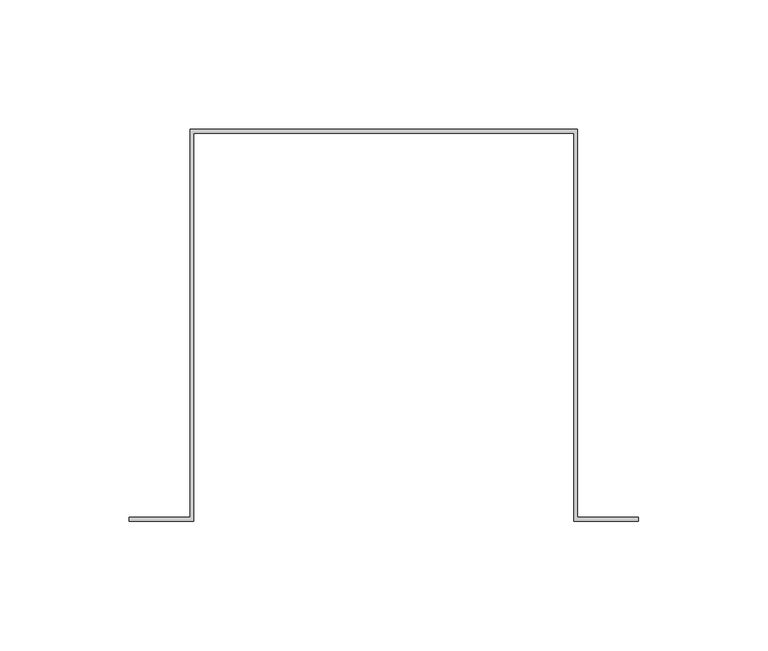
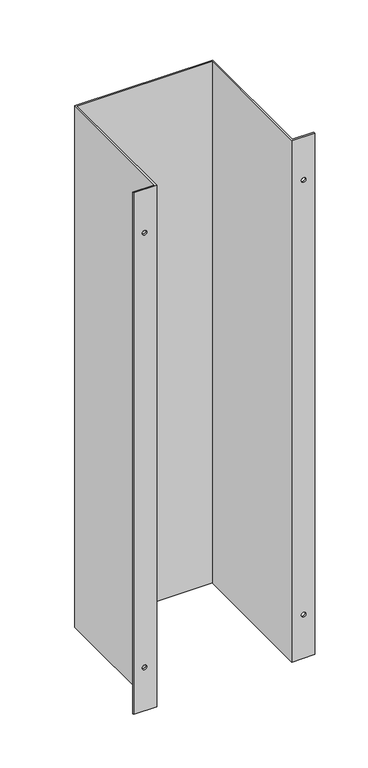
"""IFC4 building model written with IfcOpenShell, lengths in millimetres: flow terminal geometry, Carenagem - Aba Externa : Carenagem 600x150x150mm."""

from ifc_helpers import new_model, si_unit, frame, origin, place, context, project, spatial, polyline, circle_curve, source, transform, mapped, element, save
from ifc_brep_helpers import plane_surface, revolved_surface, advanced_brep


def flow_terminal_2c46cccc(model_context):
    return source(origin(), model_context, "Body", "AdvancedBrep", [
        advanced_brep(
        [(26.5, 101.5, 600.0), (26.5, 100.0, 600.0), (51.5, 100.0, 600.0), (51.5, 250.0, 600.0), (198.5, 250.0, 600.0), (198.5, 100.0, 600.0), (223.5, 100.0, 600.0), (223.5, 101.5, 600.0), (200.0, 101.5, 600.0), (200.0, 251.5, 600.0), (50.0, 251.5, 600.0), (50.0, 101.5, 600.0), (26.5, 101.5, 0.0), (50.0, 101.5, 0.0), (50.0, 251.5, 0.0), (200.0, 251.5, 0.0), (200.0, 101.5, 0.0), (223.5, 101.5, 0.0), (223.5, 100.0, 0.0), (198.5, 100.0, 0.0), (198.5, 250.0, 0.0), (51.5, 250.0, 0.0), (51.5, 100.0, 0.0), (26.5, 100.0, 0.0), (41.0, 100.0, 550.0), (36.0, 100.0, 550.0), (41.0, 100.0, 50.0), (36.0, 100.0, 50.0), (214.0, 100.0, 550.0), (209.0, 100.0, 550.0), (214.0, 100.0, 50.0), (209.0, 100.0, 50.0), (209.0, 101.5, 550.0), (214.0, 101.5, 550.0), (209.0, 101.5, 50.0), (214.0, 101.5, 50.0), (36.0, 101.5, 550.0), (41.0, 101.5, 550.0), (36.0, 101.5, 50.0), (41.0, 101.5, 50.0)],
        [
            (0, 1),
            (1, 2),
            (2, 3),
            (3, 4),
            (4, 5),
            (5, 6),
            (6, 7),
            (7, 8),
            (8, 9),
            (9, 10),
            (10, 11),
            (11, 0),
            (12, 13),
            (13, 14),
            (14, 15),
            (15, 16),
            (16, 17),
            (17, 18),
            (18, 19),
            (19, 20),
            (20, 21),
            (21, 22),
            (22, 23),
            (23, 12),
            (0, 12),
            (23, 1),
            (22, 2),
            (24, 25, circle_curve(frame((38.5, 100.0, 550.0), z_axis=(0.0, 1.0, 0.0), x_axis=(1.0, 0.0, 0.0)), 2.5)),
            (25, 24, circle_curve(frame((38.5, 100.0, 550.0), z_axis=(0.0, 1.0, 0.0), x_axis=(1.0, 0.0, 0.0)), 2.5)),
            (26, 27, circle_curve(frame((38.5, 100.0, 50.0), z_axis=(0.0, 1.0, 0.0), x_axis=(1.0, 0.0, 0.0)), 2.5)),
            (27, 26, circle_curve(frame((38.5, 100.0, 50.0), z_axis=(0.0, 1.0, 0.0), x_axis=(1.0, 0.0, 0.0)), 2.5)),
            (21, 3),
            (20, 4),
            (19, 5),
            (18, 6),
            (28, 29, circle_curve(frame((211.5, 100.0, 550.0), z_axis=(0.0, 1.0, 0.0), x_axis=(1.0, 0.0, 0.0)), 2.5)),
            (29, 28, circle_curve(frame((211.5, 100.0, 550.0), z_axis=(0.0, 1.0, 0.0), x_axis=(1.0, 0.0, 0.0)), 2.5)),
            (30, 31, circle_curve(frame((211.5, 100.0, 50.0), z_axis=(0.0, 1.0, 0.0), x_axis=(1.0, 0.0, 0.0)), 2.5)),
            (31, 30, circle_curve(frame((211.5, 100.0, 50.0), z_axis=(0.0, 1.0, 0.0), x_axis=(1.0, 0.0, 0.0)), 2.5)),
            (17, 7),
            (16, 8),
            (32, 33, circle_curve(frame((211.5, 101.5, 550.0), z_axis=(0.0, -1.0, 0.0), x_axis=(1.0, 0.0, 0.0)), 2.5)),
            (33, 32, circle_curve(frame((211.5, 101.5, 550.0), z_axis=(0.0, -1.0, 0.0), x_axis=(1.0, 0.0, 0.0)), 2.5)),
            (34, 35, circle_curve(frame((211.5, 101.5, 50.0), z_axis=(0.0, -1.0, 0.0), x_axis=(1.0, 0.0, 0.0)), 2.5)),
            (35, 34, circle_curve(frame((211.5, 101.5, 50.0), z_axis=(0.0, -1.0, 0.0), x_axis=(1.0, 0.0, 0.0)), 2.5)),
            (15, 9),
            (14, 10),
            (13, 11),
            (36, 37, circle_curve(frame((38.5, 101.5, 550.0), z_axis=(0.0, -1.0, 0.0), x_axis=(1.0, 0.0, 0.0)), 2.5)),
            (37, 36, circle_curve(frame((38.5, 101.5, 550.0), z_axis=(0.0, -1.0, 0.0), x_axis=(1.0, 0.0, 0.0)), 2.5)),
            (38, 39, circle_curve(frame((38.5, 101.5, 50.0), z_axis=(0.0, -1.0, 0.0), x_axis=(1.0, 0.0, 0.0)), 2.5)),
            (39, 38, circle_curve(frame((38.5, 101.5, 50.0), z_axis=(0.0, -1.0, 0.0), x_axis=(1.0, 0.0, 0.0)), 2.5)),
            (32, 29),
            (28, 33),
            (36, 25),
            (24, 37),
            (34, 31),
            (30, 35),
            (38, 27),
            (26, 39),
        ],
        [
            plane_surface(frame((26.5, 100.0, 600.0), z_axis=(0.0, 0.0, 1.0), x_axis=(0.0, -1.0, 0.0))),
            plane_surface(frame((26.5, 100.0, 0.0), z_axis=(0.0, 0.0, -1.0), x_axis=(0.0, 1.0, 0.0))),
            plane_surface(frame((26.5, 101.5, 600.0), z_axis=(-1.0, 0.0, 0.0), x_axis=(0.0, 0.0, -1.0))),
            plane_surface(frame((26.5, 100.0, 600.0), z_axis=(0.0, -1.0, 0.0), x_axis=(0.0, 0.0, -1.0))),
            plane_surface(frame((51.5, 100.0, 600.0), z_axis=(1.0, 0.0, 0.0), x_axis=(0.0, 0.0, -1.0))),
            plane_surface(frame((51.5, 250.0, 600.0), z_axis=(0.0, -1.0, 0.0), x_axis=(0.0, 0.0, -1.0))),
            plane_surface(frame((198.5, 250.0, 600.0), z_axis=(-1.0, 0.0, 0.0), x_axis=(0.0, 0.0, -1.0))),
            plane_surface(frame((198.5, 100.0, 600.0), z_axis=(0.0, -1.0, 0.0), x_axis=(0.0, 0.0, -1.0))),
            plane_surface(frame((223.5, 100.0, 600.0), z_axis=(1.0, 0.0, 0.0), x_axis=(0.0, 0.0, -1.0))),
            plane_surface(frame((223.5, 101.5, 600.0), z_axis=(0.0, 1.0, 0.0), x_axis=(0.0, 0.0, -1.0))),
            plane_surface(frame((200.0, 101.5, 600.0), z_axis=(1.0, 0.0, 0.0), x_axis=(0.0, 0.0, -1.0))),
            plane_surface(frame((200.0, 251.5, 600.0), z_axis=(0.0, 1.0, 0.0), x_axis=(0.0, 0.0, -1.0))),
            plane_surface(frame((50.0, 251.5, 600.0), z_axis=(-1.0, 0.0, 0.0), x_axis=(0.0, 0.0, -1.0))),
            plane_surface(frame((50.0, 101.5, 600.0), z_axis=(0.0, 1.0, 0.0), x_axis=(0.0, 0.0, -1.0))),
            revolved_surface(polyline([(214.0, 100.0, 550.0), (214.0, 101.5, 550.0)]), (211.5, 251.5, 550.0), (0.0, -1.0, 0.0)),
            revolved_surface(polyline([(41.0, 100.0, 550.0), (41.0, 101.5, 550.0)]), (38.5, -20.0, 550.0), (0.0, -1.0, 0.0)),
            revolved_surface(polyline([(214.0, 100.0, 50.0), (214.0, 101.5, 50.0)]), (211.5, -20.0, 50.0), (0.0, -1.0, 0.0)),
            revolved_surface(polyline([(41.0, 100.0, 50.0), (41.0, 101.5, 50.0)]), (38.5, -20.0, 50.0), (0.0, -1.0, 0.0)),
        ],
        [
            (0, [[1, 2, 3, 4, 5, 6, 7, 8, 9, 10, 11, 12]]),
            (1, [[13, 14, 15, 16, 17, 18, 19, 20, 21, 22, 23, 24]]),
            (2, [[-1, 25, -24, 26]]),
            (3, [[-2, -26, -23, 27], [28, 29], [30, 31]]),
            (4, [[-3, -27, -22, 32]]),
            (5, [[-4, -32, -21, 33]]),
            (6, [[-5, -33, -20, 34]]),
            (7, [[-6, -34, -19, 35], [36, 37], [38, 39]]),
            (8, [[-7, -35, -18, 40]]),
            (9, [[-8, -40, -17, 41], [42, 43], [44, 45]]),
            (10, [[-9, -41, -16, 46]]),
            (11, [[-10, -46, -15, 47]]),
            (12, [[-11, -47, -14, 48]]),
            (13, [[-12, -48, -13, -25], [49, 50], [51, 52]]),
            (14, [[53, -36, 54, -42]]),
            (14, [[-53, -43, -54, -37]]),
            (15, [[55, -28, 56, -49]]),
            (15, [[-55, -50, -56, -29]]),
            (16, [[57, -38, 58, -44]]),
            (16, [[-57, -45, -58, -39]]),
            (17, [[59, -30, 60, -51]]),
            (17, [[-59, -52, -60, -31]]),
        ],
    ),
    ])


if __name__ == "__main__":
    model = new_model("IFC4")
    model_context = context("Model", 3, world=origin())
    ifc_project = project(units=[si_unit("LENGTHUNIT", "METRE", prefix="MILLI")], contexts=[model_context])
    site = spatial("IfcSite", under=ifc_project)
    building = spatial("IfcBuilding", under=site)
    placement = place(None, origin())
    flow_terminal_shape = flow_terminal_2c46cccc(model_context)
    element("IfcFlowTerminal", 1, ObjectType="Carenagem - Aba Externa : Carenagem 600x150x150mm", at=placement, inside=building, context=model_context, shape_type="MappedRepresentation", body=[
        mapped(flow_terminal_shape, transform((0.0, 0.0, 0.0), x_axis=(1.0, 0.0, 0.0), y_axis=(0.0, 1.0, 0.0), z_axis=(0.0, 0.0, 1.0))),
    ])
    save(model, "model.ifc")
